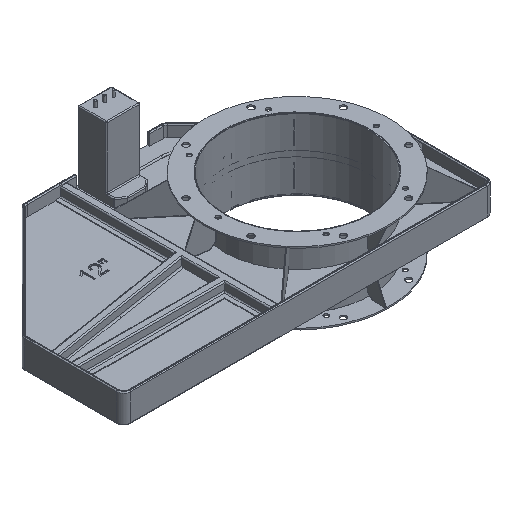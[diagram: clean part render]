
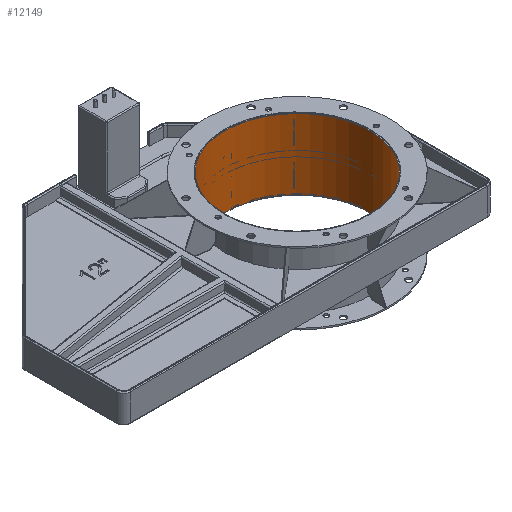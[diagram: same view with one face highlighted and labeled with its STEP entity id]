
A CAD part, isometric view. The second image highlights one B-rep face of the part: STEP entity #12149.
In plain terms, the highlighted free-form (B-spline) face has degree [2, 1] with [9, 2] control points.
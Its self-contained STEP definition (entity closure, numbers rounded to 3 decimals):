
#12082=CARTESIAN_POINT('',(0.,-150.9,-74.25));
#12083=VERTEX_POINT('',#12082);
#12084=CARTESIAN_POINT('',(0.,-150.9,-74.25));
#12085=CARTESIAN_POINT('',(-261.366,-150.9,-74.25));
#12086=CARTESIAN_POINT('',(-130.683,75.45,-74.25));
#12087=CARTESIAN_POINT('',(0.,301.8,-74.25));
#12088=CARTESIAN_POINT('',(130.683,75.45,-74.25));
#12089=CARTESIAN_POINT('',(261.366,-150.9,-74.25));
#12090=CARTESIAN_POINT('',(0.,-150.9,-74.25));
#12091=(BOUNDED_CURVE()B_SPLINE_CURVE(2,(#12084,#12085,#12086,#12087,#12088,#12089,#12090),.CIRCULAR_ARC.,.T.,.U.)B_SPLINE_CURVE_WITH_KNOTS((3,2,2,3),(0.,0.333,0.667,1.),.UNSPECIFIED.)CURVE()GEOMETRIC_REPRESENTATION_ITEM()RATIONAL_B_SPLINE_CURVE((1.,0.5,1.,0.5,1.,0.5,1.))REPRESENTATION_ITEM(''));
#12092=EDGE_CURVE('',#12083,#12083,#12091,.T.);
#12105=CARTESIAN_POINT('',(0.,-150.9,74.25));
#12106=VERTEX_POINT('',#12105);
#12107=CARTESIAN_POINT('',(0.,-150.9,74.25));
#12108=CARTESIAN_POINT('',(-261.366,-150.9,74.25));
#12109=CARTESIAN_POINT('',(-130.683,75.45,74.25));
#12110=CARTESIAN_POINT('',(0.,301.8,74.25));
#12111=CARTESIAN_POINT('',(130.683,75.45,74.25));
#12112=CARTESIAN_POINT('',(261.366,-150.9,74.25));
#12113=CARTESIAN_POINT('',(0.,-150.9,74.25));
#12114=(BOUNDED_CURVE()B_SPLINE_CURVE(2,(#12107,#12108,#12109,#12110,#12111,#12112,#12113),.CIRCULAR_ARC.,.T.,.U.)B_SPLINE_CURVE_WITH_KNOTS((3,2,2,3),(0.,0.333,0.667,1.),.UNSPECIFIED.)CURVE()GEOMETRIC_REPRESENTATION_ITEM()RATIONAL_B_SPLINE_CURVE((1.,0.5,1.,0.5,1.,0.5,1.))REPRESENTATION_ITEM(''));
#12115=EDGE_CURVE('',#12106,#12106,#12114,.T.);
#12120=CARTESIAN_POINT('',(0.,-150.9,-74.25));
#12121=CARTESIAN_POINT('',(0.,-150.9,74.25));
#12122=CARTESIAN_POINT('',(150.9,-150.9,-74.25));
#12123=CARTESIAN_POINT('',(150.9,-150.9,74.25));
#12124=CARTESIAN_POINT('',(150.9,0.,-74.25));
#12125=CARTESIAN_POINT('',(150.9,0.,74.25));
#12126=CARTESIAN_POINT('',(150.9,150.9,-74.25));
#12127=CARTESIAN_POINT('',(150.9,150.9,74.25));
#12128=CARTESIAN_POINT('',(0.,150.9,-74.25));
#12129=CARTESIAN_POINT('',(0.,150.9,74.25));
#12130=CARTESIAN_POINT('',(-150.9,150.9,-74.25));
#12131=CARTESIAN_POINT('',(-150.9,150.9,74.25));
#12132=CARTESIAN_POINT('',(-150.9,0.,-74.25));
#12133=CARTESIAN_POINT('',(-150.9,0.,74.25));
#12134=CARTESIAN_POINT('',(-150.9,-150.9,-74.25));
#12135=CARTESIAN_POINT('',(-150.9,-150.9,74.25));
#12136=CARTESIAN_POINT('',(0.,-150.9,-74.25));
#12137=CARTESIAN_POINT('',(0.,-150.9,74.25));
#12138=(BOUNDED_SURFACE()B_SPLINE_SURFACE(2,1,((#12120,#12121),(#12122,#12123),(#12124,#12125),(#12126,#12127),(#12128,#12129),(#12130,#12131),(#12132,#12133),(#12134,#12135),(#12136,#12137)),.CYLINDRICAL_SURF.,.T.,.F.,.U.)B_SPLINE_SURFACE_WITH_KNOTS((3,2,2,2,3),(2,2),(0.,0.25,0.5,0.75,1.),(0.,1.),.UNSPECIFIED.)GEOMETRIC_REPRESENTATION_ITEM()RATIONAL_B_SPLINE_SURFACE(((1.,1.),(0.707,0.707),(1.,1.),(0.707,0.707),(1.,1.),(0.707,0.707),(1.,1.),(0.707,0.707),(1.,1.)))REPRESENTATION_ITEM('')SURFACE());
#12139=ORIENTED_EDGE('',*,*,#12092,.F.);
#12140=CARTESIAN_POINT('',(0.,-150.9,-74.25));
#12141=CARTESIAN_POINT('',(0.,-150.9,74.25));
#12142=B_SPLINE_CURVE_WITH_KNOTS('',1,(#12140,#12141),.POLYLINE_FORM.,.F.,.U.,(2,2),(0.,1.),.UNSPECIFIED.);
#12143=EDGE_CURVE('',#12083,#12106,#12142,.T.);
#12144=ORIENTED_EDGE('',*,*,#12143,.T.);
#12145=ORIENTED_EDGE('',*,*,#12115,.T.);
#12146=ORIENTED_EDGE('',*,*,#12143,.F.);
#12147=EDGE_LOOP('',(#12139,#12144,#12145,#12146));
#12148=FACE_OUTER_BOUND('',#12147,.F.);
#12149=ADVANCED_FACE('',(#12148),#12138,.F.);
